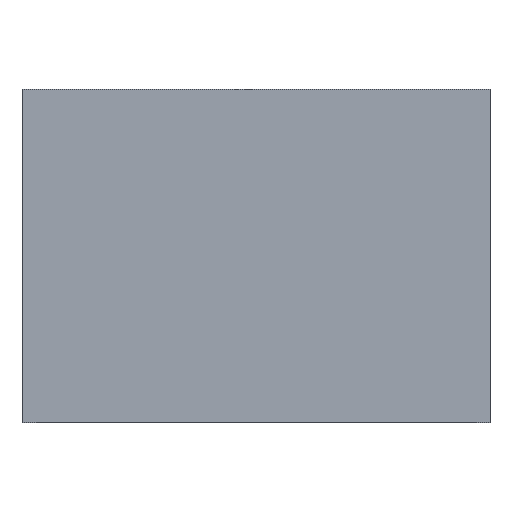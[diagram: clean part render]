
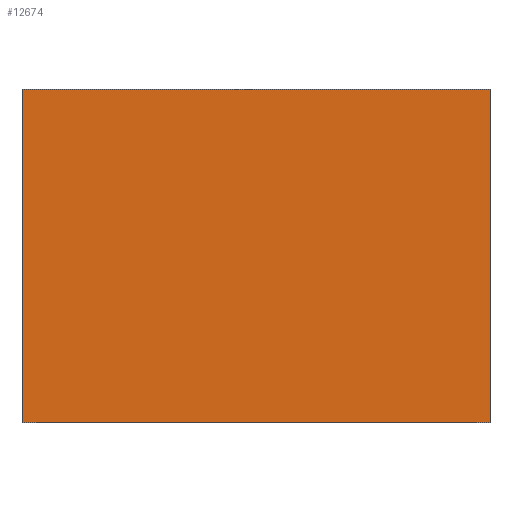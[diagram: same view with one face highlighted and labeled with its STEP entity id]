
A CAD part, top view. The second image highlights one B-rep face of the part: STEP entity #12674.
In plain terms, the highlighted planar face has unit normal (0, 0, 1).
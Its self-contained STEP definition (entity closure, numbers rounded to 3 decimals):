
#1232=ORIENTED_EDGE('',*,*,#4886,.T.);
#1233=ORIENTED_EDGE('',*,*,#4912,.F.);
#1234=ORIENTED_EDGE('',*,*,#4894,.F.);
#1235=ORIENTED_EDGE('',*,*,#4911,.T.);
#4886=EDGE_CURVE('',#6722,#6721,#7953,.T.);
#4894=EDGE_CURVE('',#6729,#6730,#7961,.T.);
#4911=EDGE_CURVE('',#6729,#6722,#7972,.T.);
#4912=EDGE_CURVE('',#6730,#6721,#7973,.T.);
#6721=VERTEX_POINT('',#18845);
#6722=VERTEX_POINT('',#18847);
#6729=VERTEX_POINT('',#18863);
#6730=VERTEX_POINT('',#18865);
#7953=LINE('',#18846,#9230);
#7961=LINE('',#18864,#9238);
#7972=LINE('',#18894,#9249);
#7973=LINE('',#18896,#9250);
#9230=VECTOR('',#15041,1000.);
#9238=VECTOR('',#15053,1000.);
#9249=VECTOR('',#15080,1000.);
#9250=VECTOR('',#15083,1000.);
#10490=EDGE_LOOP('',(#1232,#1233,#1234,#1235));
#11397=FACE_BOUND('',#10490,.T.);
#12258=PLANE('',#13593);
#12674=ADVANCED_FACE('',(#11397),#12258,.F.);
#13593=AXIS2_PLACEMENT_3D('',#18895,#15081,#15082);
#15041=DIRECTION('',(-1.,0.,0.));
#15053=DIRECTION('',(-1.,0.,0.));
#15080=DIRECTION('',(0.,1.,0.));
#15081=DIRECTION('',(0.,0.,-1.));
#15082=DIRECTION('',(-1.,0.,0.));
#15083=DIRECTION('',(0.,1.,0.));
#18845=CARTESIAN_POINT('',(-281.,200.,75.));
#18846=CARTESIAN_POINT('',(0.,200.,75.));
#18847=CARTESIAN_POINT('',(281.,200.,75.));
#18863=CARTESIAN_POINT('',(281.,-200.,75.));
#18864=CARTESIAN_POINT('',(0.,-200.,75.));
#18865=CARTESIAN_POINT('',(-281.,-200.,75.));
#18894=CARTESIAN_POINT('',(281.,-200.,75.));
#18895=CARTESIAN_POINT('',(0.,-200.,75.));
#18896=CARTESIAN_POINT('',(-281.,-200.,75.));
